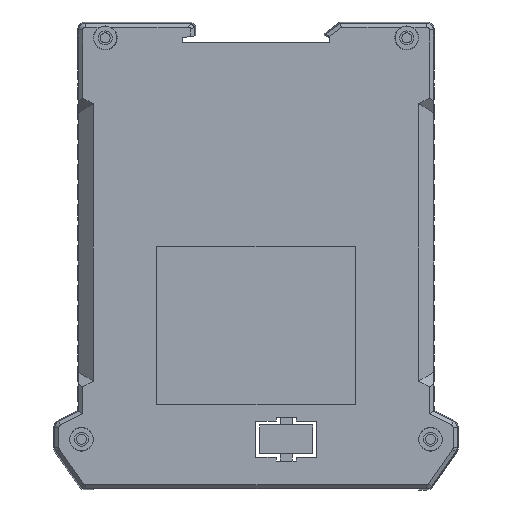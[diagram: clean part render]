
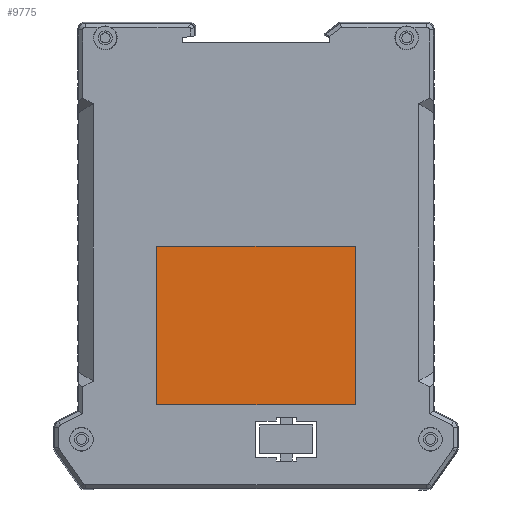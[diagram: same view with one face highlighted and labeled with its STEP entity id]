
A CAD part, front view. The second image highlights one B-rep face of the part: STEP entity #9775.
In plain terms, the highlighted planar face has unit normal (0, -1, 0).
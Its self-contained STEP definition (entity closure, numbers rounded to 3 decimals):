
#4293 = EDGE_CURVE ( 'NONE', #43023, #27604, #30247, .T. ) ;
#5098 = DIRECTION ( 'NONE',  ( 1., 0., 0. ) ) ;
#5596 = CARTESIAN_POINT ( 'NONE',  ( -25., -16.75, -35. ) ) ;
#6322 = VECTOR ( 'NONE', #13649, 1000. ) ;
#8600 = EDGE_CURVE ( 'NONE', #12858, #35809, #45941, .T. ) ;
#9398 = DIRECTION ( 'NONE',  ( -1., 0., 0. ) ) ;
#9775 = ADVANCED_FACE ( 'NONE', ( #37885 ), #37419, .F. ) ;
#11440 = CARTESIAN_POINT ( 'NONE',  ( 25., -16.75, -35. ) ) ;
#12454 = CARTESIAN_POINT ( 'NONE',  ( -25., -16.75, 5. ) ) ;
#12467 = DIRECTION ( 'NONE',  ( 0., 1., 0. ) ) ;
#12697 = CARTESIAN_POINT ( 'NONE',  ( 0., -16.75, 0. ) ) ;
#12806 = ORIENTED_EDGE ( 'NONE', *, *, #4293, .F. ) ;
#12810 = CARTESIAN_POINT ( 'NONE',  ( 25., -16.75, 5. ) ) ;
#12858 = VERTEX_POINT ( 'NONE', #12810 ) ;
#13649 = DIRECTION ( 'NONE',  ( 0., 0., -1. ) ) ;
#15076 = VECTOR ( 'NONE', #5098, 1000. ) ;
#16978 = ORIENTED_EDGE ( 'NONE', *, *, #44837, .F. ) ;
#19133 = ORIENTED_EDGE ( 'NONE', *, *, #23771, .F. ) ;
#19885 = EDGE_LOOP ( 'NONE', ( #12806, #16978, #38250, #19133 ) ) ;
#20362 = CARTESIAN_POINT ( 'NONE',  ( -25., -16.75, 5. ) ) ;
#23771 = EDGE_CURVE ( 'NONE', #27604, #12858, #30041, .T. ) ;
#27604 = VERTEX_POINT ( 'NONE', #20362 ) ;
#30041 = LINE ( 'NONE', #12454, #15076 ) ;
#30247 = LINE ( 'NONE', #36906, #35543 ) ;
#35543 = VECTOR ( 'NONE', #44747, 1000. ) ;
#35809 = VERTEX_POINT ( 'NONE', #11440 ) ;
#36906 = CARTESIAN_POINT ( 'NONE',  ( -25., -16.75, -35. ) ) ;
#37419 = PLANE ( 'NONE',  #40570 ) ;
#37885 = FACE_OUTER_BOUND ( 'NONE', #19885, .T. ) ;
#38250 = ORIENTED_EDGE ( 'NONE', *, *, #8600, .F. ) ;
#38357 = DIRECTION ( 'NONE',  ( 0., 0., 1. ) ) ;
#40570 = AXIS2_PLACEMENT_3D ( 'NONE', #12697, #12467, #38357 ) ;
#40969 = CARTESIAN_POINT ( 'NONE',  ( -25., -16.75, -35. ) ) ;
#41933 = LINE ( 'NONE', #5596, #45588 ) ;
#42384 = CARTESIAN_POINT ( 'NONE',  ( 25., -16.75, -35. ) ) ;
#43023 = VERTEX_POINT ( 'NONE', #40969 ) ;
#44747 = DIRECTION ( 'NONE',  ( 0., 0., 1. ) ) ;
#44837 = EDGE_CURVE ( 'NONE', #35809, #43023, #41933, .T. ) ;
#45588 = VECTOR ( 'NONE', #9398, 1000. ) ;
#45941 = LINE ( 'NONE', #42384, #6322 ) ;
